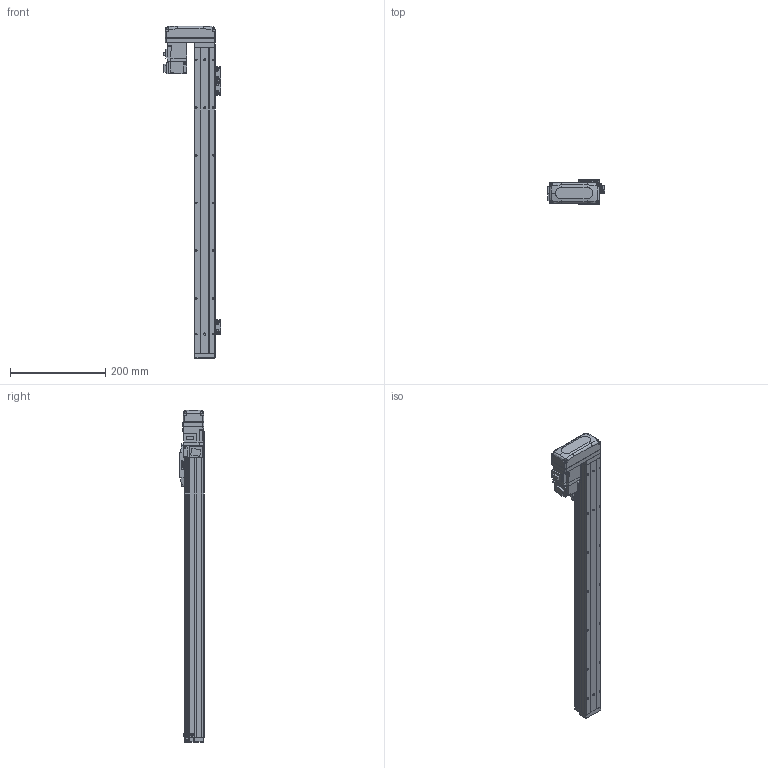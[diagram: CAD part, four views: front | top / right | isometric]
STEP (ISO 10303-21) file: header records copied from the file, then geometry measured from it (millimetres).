
FILE_DESCRIPTION (( 'STEP AP203' ), '1' );
FILE_NAME ('BTH40-500-BR-M05-C4.step', '2021-12-16T00:21:58', ( '微软用户' ), ( '微软中国' ), 'SwSTEP 2.0', 'SolidWorks 2020', '' );
FILE_SCHEMA (( 'CONFIG_CONTROL_DESIGN' ));
Length unit declared in the file: millimetre
Products named in the file (19): BTH-M3X5X6; BTH40-022; BTH50-026; GBT70.1-2000 M3×16; GBT 70.1-M2.5×6; BTH40-500-BR-M05-C4; BTH50-028; BTH40-004; BTH50-023; BTH40-013; BTH40-001-50_BTH40-001-500; BTH50-024; HG-KR13; BTH40-003; GBT 70.1-M3℅6; GBT 70.3-M3℅6; BTH40-006; GBT96.1-2002 3×0.8; BTH40-027-1
Assembly tree (47 placements, depth 2):
  BTH40-500-BR-M05-C4
    BTH40-001-50_BTH40-001-500
    BTH40-003
    BTH40-006
    BTH-M3X5X6  x8
    GBT70.1-2000 M3×16  x4
    BTH50-028  x2
    BTH50-023  x3
    BTH50-024  x3
    GBT 70.1-M3℅6  x6
    GBT96.1-2002 3×0.8  x6
    BTH40-022
    GBT 70.1-M2.5×6  x2
    BTH40-004
    BTH40-013
    HG-KR13
    GBT 70.3-M3℅6  x4
    BTH40-027-1
    BTH50-026
Bounding box: 120 x 52 x 696 mm (x, y, z)
Volume: 1278129 mm3; surface area: 226648.3 mm2
Topology: 49 solids, 49 shells, 1983 faces, 4659 edges, 2866 vertices
Faces by surface type: plane 1052, cylinder 495, cone 270, torus 128, bspline 34, sphere 4
Entity records: 39691 total; most frequent: CARTESIAN_POINT 7594, DIRECTION 6224, ORIENTED_EDGE 5964, EDGE_CURVE 2982, AXIS2_PLACEMENT_3D 2131, VECTOR 1962, LINE 1962, VERTEX_POINT 1853
